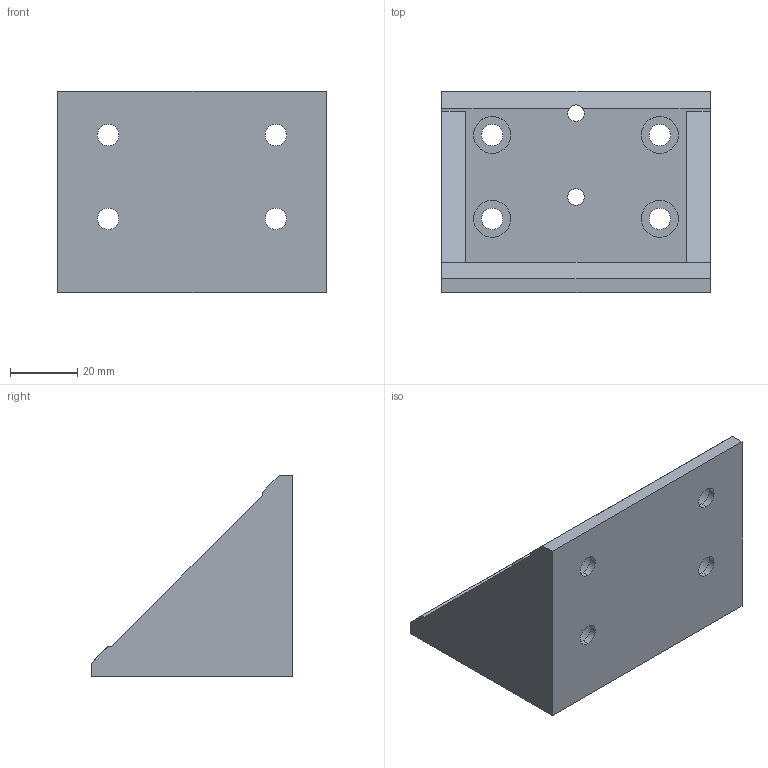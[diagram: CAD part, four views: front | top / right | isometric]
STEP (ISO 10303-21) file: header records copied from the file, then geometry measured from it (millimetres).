
FILE_DESCRIPTION (( 'STEP AP203' ), '1' );
FILE_NAME ('2AB67-25.STEP', '2009-10-23T06:46:50', ( 'Darius' ), ( '' ), 'SwSTEP 2.0', 'SolidWorks 2003240', '' );
FILE_SCHEMA (( 'CONFIG_CONTROL_DESIGN' ));
Length unit declared in the file: millimetre
Products named in the file (1): 2AB67-25
Bounding box: 80 x 60 x 60 mm (x, y, z)
Volume: 85917.6 mm3; surface area: 26300.7 mm2
Topology: 1 solids, 1 shells, 58 faces, 147 edges, 98 vertices
Faces by surface type: cylinder 36, plane 22
Entity records: 1900 total; most frequent: DIRECTION 335, CARTESIAN_POINT 310, ORIENTED_EDGE 294, EDGE_CURVE 147, AXIS2_PLACEMENT_3D 131, VERTEX_POINT 98, EDGE_LOOP 85, VECTOR 73
